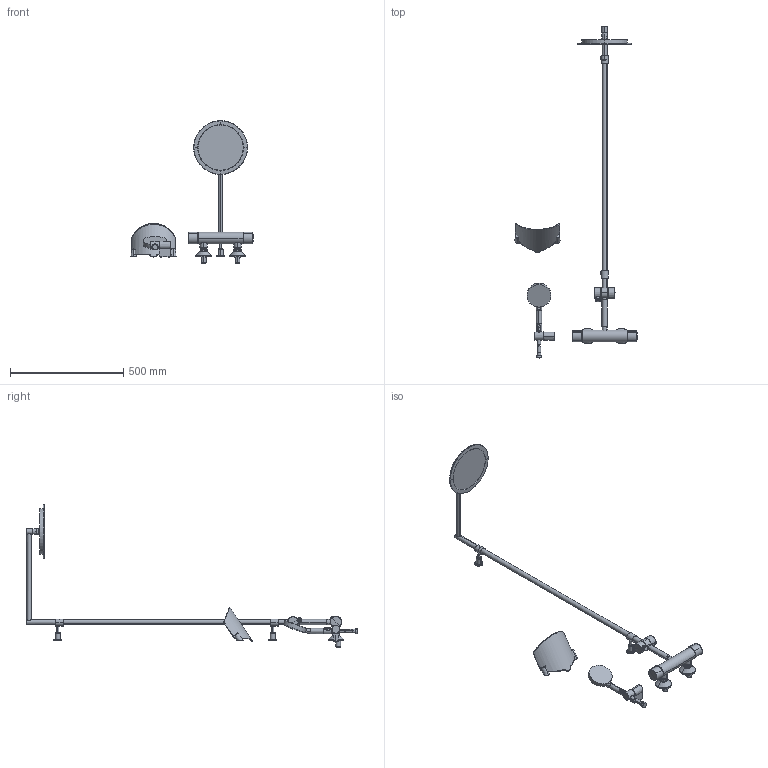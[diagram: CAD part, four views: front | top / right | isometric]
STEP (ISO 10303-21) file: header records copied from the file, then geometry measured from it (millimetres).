
FILE_DESCRIPTION (( 'STEP AP203' ), '1' );
FILE_NAME ('2892U+64159101.STEP', '2018-07-11T11:20:25', ( '' ), ( '' ), 'SwSTEP 2.0', 'SolidWorks 2016', '' );
FILE_SCHEMA (( 'CONFIG_CONTROL_DESIGN' ));
Length unit declared in the file: millimetre
Products named in the file (1): 2892U+64159101
Bounding box: 539.83 x 1467.05 x 631 mm (x, y, z)
Volume: 2826265.2 mm3; surface area: 514838 mm2
Topology: 30 solids, 31 shells, 926 faces, 2075 edges, 1242 vertices
Faces by surface type: cylinder 231, bspline 209, plane 198, torus 136, cone 126, sphere 26
Entity records: 45184 total; most frequent: CARTESIAN_POINT 26235, ORIENTED_EDGE 4114, DIRECTION 3702, EDGE_CURVE 2057, AXIS2_PLACEMENT_3D 1605, VERTEX_POINT 1240, EDGE_LOOP 977, ADVANCED_FACE 926
